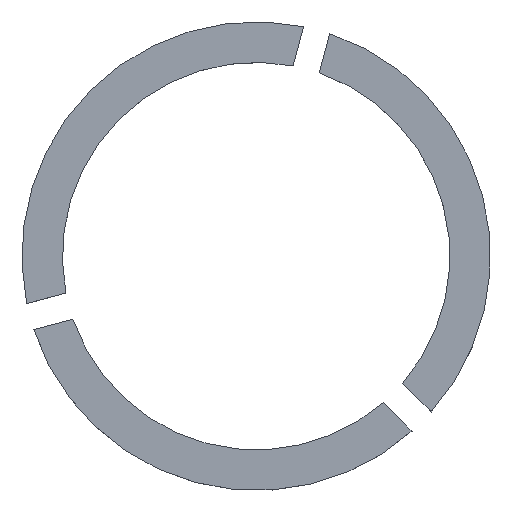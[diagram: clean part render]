
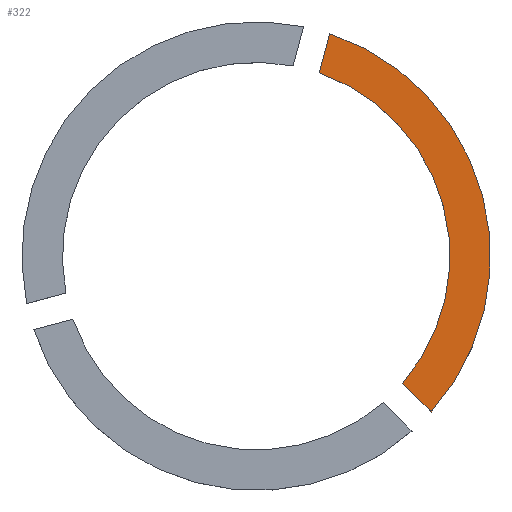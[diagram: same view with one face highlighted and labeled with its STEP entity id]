
A CAD part, top view. The second image highlights one B-rep face of the part: STEP entity #322.
In plain terms, the highlighted planar face has unit normal (0, 0, 1).
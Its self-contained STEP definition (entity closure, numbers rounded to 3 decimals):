
#59 = CYLINDRICAL_SURFACE('',#60,10.4);
#60 = AXIS2_PLACEMENT_3D('',#61,#62,#63);
#61 = CARTESIAN_POINT('',(79.,38.,13.4));
#62 = DIRECTION('',(-0.,-0.,1.));
#63 = DIRECTION('',(1.,-0.,-0.));
#88 = VERTEX_POINT('',#89);
#89 = CARTESIAN_POINT('',(86.766,31.083,15.));
#103 = PLANE('',#104);
#104 = AXIS2_PLACEMENT_3D('',#105,#106,#107);
#105 = CARTESIAN_POINT('',(84.798,33.05,12.4));
#106 = DIRECTION('',(-0.707,-0.707,-0.));
#107 = DIRECTION('',(0.,0.,-1.));
#115 = EDGE_CURVE('',#88,#116,#118,.T.);
#116 = VERTEX_POINT('',#117);
#117 = CARTESIAN_POINT('',(82.267,47.874,15.));
#118 = SURFACE_CURVE('',#119,(#124,#131),.PCURVE_S1.);
#119 = CIRCLE('',#120,10.4);
#120 = AXIS2_PLACEMENT_3D('',#121,#122,#123);
#121 = CARTESIAN_POINT('',(79.,38.,15.));
#122 = DIRECTION('',(0.,0.,1.));
#123 = DIRECTION('',(0.747,-0.665,-0.));
#124 = PCURVE('',#59,#125);
#125 = DEFINITIONAL_REPRESENTATION('',(#126),#130);
#126 = LINE('',#127,#128);
#127 = CARTESIAN_POINT('',(-7.011,1.6));
#128 = VECTOR('',#129,1.);
#129 = DIRECTION('',(1.,-0.));
#130 = ( GEOMETRIC_REPRESENTATION_CONTEXT(2) 
PARAMETRIC_REPRESENTATION_CONTEXT() REPRESENTATION_CONTEXT('2D SPACE',''
  ) );
#131 = PCURVE('',#132,#137);
#132 = PLANE('',#133);
#133 = AXIS2_PLACEMENT_3D('',#134,#135,#136);
#134 = CARTESIAN_POINT('',(79.,38.,15.));
#135 = DIRECTION('',(-0.,-0.,1.));
#136 = DIRECTION('',(-1.,0.,0.));
#137 = DEFINITIONAL_REPRESENTATION('',(#138),#142);
#138 = CIRCLE('',#139,10.4);
#139 = AXIS2_PLACEMENT_2D('',#140,#141);
#140 = CARTESIAN_POINT('',(0.,0.));
#141 = DIRECTION('',(-0.747,0.665));
#142 = ( GEOMETRIC_REPRESENTATION_CONTEXT(2) 
PARAMETRIC_REPRESENTATION_CONTEXT() REPRESENTATION_CONTEXT('2D SPACE',''
  ) );
#158 = PLANE('',#159);
#159 = AXIS2_PLACEMENT_3D('',#160,#161,#162);
#160 = CARTESIAN_POINT('',(81.547,45.186,12.4));
#161 = DIRECTION('',(0.966,-0.259,-0.));
#162 = DIRECTION('',(0.,0.,-1.));
#198 = VERTEX_POINT('',#199);
#199 = CARTESIAN_POINT('',(81.8,46.131,15.));
#213 = CYLINDRICAL_SURFACE('',#214,8.6);
#214 = AXIS2_PLACEMENT_3D('',#215,#216,#217);
#215 = CARTESIAN_POINT('',(79.,38.,12.4));
#216 = DIRECTION('',(-0.,-0.,1.));
#217 = DIRECTION('',(1.,-0.,-0.));
#225 = EDGE_CURVE('',#116,#198,#226,.T.);
#226 = SURFACE_CURVE('',#227,(#231,#238),.PCURVE_S1.);
#227 = LINE('',#228,#229);
#228 = CARTESIAN_POINT('',(80.563,41.515,15.));
#229 = VECTOR('',#230,1.);
#230 = DIRECTION('',(-0.259,-0.966,-0.));
#231 = PCURVE('',#158,#232);
#232 = DEFINITIONAL_REPRESENTATION('',(#233),#237);
#233 = LINE('',#234,#235);
#234 = CARTESIAN_POINT('',(-2.6,-3.8));
#235 = VECTOR('',#236,1.);
#236 = DIRECTION('',(-0.,-1.));
#237 = ( GEOMETRIC_REPRESENTATION_CONTEXT(2) 
PARAMETRIC_REPRESENTATION_CONTEXT() REPRESENTATION_CONTEXT('2D SPACE',''
  ) );
#238 = PCURVE('',#132,#239);
#239 = DEFINITIONAL_REPRESENTATION('',(#240),#244);
#240 = LINE('',#241,#242);
#241 = CARTESIAN_POINT('',(-1.563,-3.515));
#242 = VECTOR('',#243,1.);
#243 = DIRECTION('',(0.259,0.966));
#244 = ( GEOMETRIC_REPRESENTATION_CONTEXT(2) 
PARAMETRIC_REPRESENTATION_CONTEXT() REPRESENTATION_CONTEXT('2D SPACE',''
  ) );
#278 = VERTEX_POINT('',#279);
#279 = CARTESIAN_POINT('',(85.491,32.358,15.));
#300 = EDGE_CURVE('',#278,#198,#301,.T.);
#301 = SURFACE_CURVE('',#302,(#307,#314),.PCURVE_S1.);
#302 = CIRCLE('',#303,8.6);
#303 = AXIS2_PLACEMENT_3D('',#304,#305,#306);
#304 = CARTESIAN_POINT('',(79.,38.,15.));
#305 = DIRECTION('',(0.,0.,1.));
#306 = DIRECTION('',(0.755,-0.656,-0.));
#307 = PCURVE('',#213,#308);
#308 = DEFINITIONAL_REPRESENTATION('',(#309),#313);
#309 = LINE('',#310,#311);
#310 = CARTESIAN_POINT('',(-6.999,2.6));
#311 = VECTOR('',#312,1.);
#312 = DIRECTION('',(1.,-0.));
#313 = ( GEOMETRIC_REPRESENTATION_CONTEXT(2) 
PARAMETRIC_REPRESENTATION_CONTEXT() REPRESENTATION_CONTEXT('2D SPACE',''
  ) );
#314 = PCURVE('',#132,#315);
#315 = DEFINITIONAL_REPRESENTATION('',(#316),#320);
#316 = CIRCLE('',#317,8.6);
#317 = AXIS2_PLACEMENT_2D('',#318,#319);
#318 = CARTESIAN_POINT('',(0.,0.));
#319 = DIRECTION('',(-0.755,0.656));
#320 = ( GEOMETRIC_REPRESENTATION_CONTEXT(2) 
PARAMETRIC_REPRESENTATION_CONTEXT() REPRESENTATION_CONTEXT('2D SPACE',''
  ) );
#322 = ADVANCED_FACE('',(#323),#132,.T.);
#323 = FACE_BOUND('',#324,.F.);
#324 = EDGE_LOOP('',(#325,#326,#327,#348));
#325 = ORIENTED_EDGE('',*,*,#225,.F.);
#326 = ORIENTED_EDGE('',*,*,#115,.F.);
#327 = ORIENTED_EDGE('',*,*,#328,.T.);
#328 = EDGE_CURVE('',#88,#278,#329,.T.);
#329 = SURFACE_CURVE('',#330,(#334,#341),.PCURVE_S1.);
#330 = LINE('',#331,#332);
#331 = CARTESIAN_POINT('',(82.111,35.737,15.));
#332 = VECTOR('',#333,1.);
#333 = DIRECTION('',(-0.707,0.707,0.));
#334 = PCURVE('',#132,#335);
#335 = DEFINITIONAL_REPRESENTATION('',(#336),#340);
#336 = LINE('',#337,#338);
#337 = CARTESIAN_POINT('',(-3.111,2.263));
#338 = VECTOR('',#339,1.);
#339 = DIRECTION('',(0.707,-0.707));
#340 = ( GEOMETRIC_REPRESENTATION_CONTEXT(2) 
PARAMETRIC_REPRESENTATION_CONTEXT() REPRESENTATION_CONTEXT('2D SPACE',''
  ) );
#341 = PCURVE('',#103,#342);
#342 = DEFINITIONAL_REPRESENTATION('',(#343),#347);
#343 = LINE('',#344,#345);
#344 = CARTESIAN_POINT('',(-2.6,-3.8));
#345 = VECTOR('',#346,1.);
#346 = DIRECTION('',(-0.,-1.));
#347 = ( GEOMETRIC_REPRESENTATION_CONTEXT(2) 
PARAMETRIC_REPRESENTATION_CONTEXT() REPRESENTATION_CONTEXT('2D SPACE',''
  ) );
#348 = ORIENTED_EDGE('',*,*,#300,.T.);
